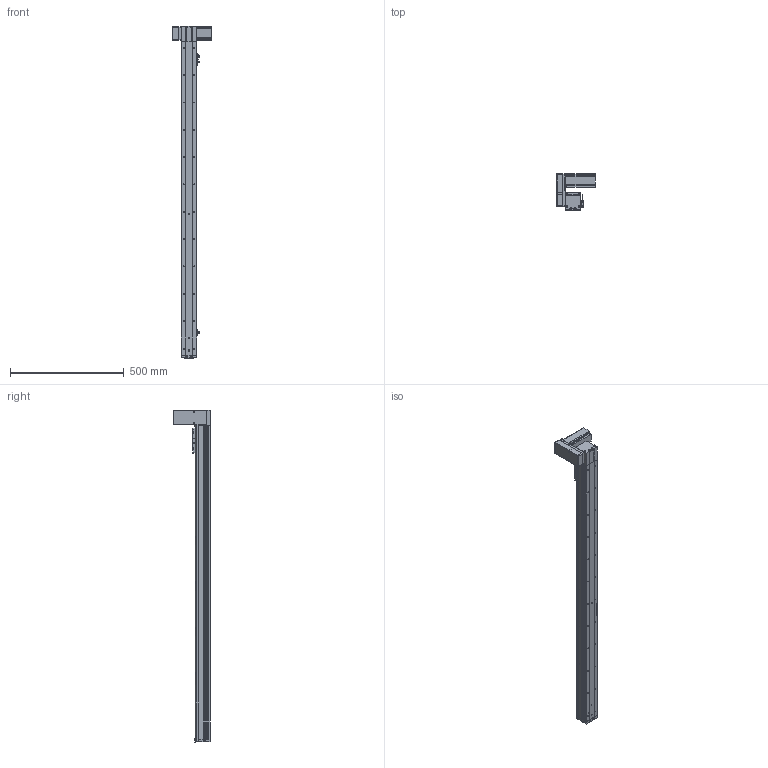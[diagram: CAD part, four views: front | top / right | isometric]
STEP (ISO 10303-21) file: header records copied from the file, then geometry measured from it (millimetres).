
FILE_DESCRIPTION (( 'STEP AP214' ), '1' );
FILE_NAME ('KSD68BS-S1200-MRU-CR.STEP', '2019-08-28T06:47:31', ( '微软用户' ), ( '微软中国' ), 'SwSTEP 2.0', 'SolidWorks 2014', '' );
FILE_SCHEMA (( 'AUTOMOTIVE_DESIGN' ));
Length unit declared in the file: millimetre
Products named in the file (14): KSD68BS-S1200-MRU-CR; KSD68BS 1200行程盖板全封闭; 68遵裔啣揤啣1; 68宽单导轨全封闭丝杆传动安装板1防护罩; KSD68BS 1200行程侧板全封闭; 68宽单导轨全封闭同步带端板; 68单导轨全封闭同步带电机座右; 68单导轨全封闭同步带安装板; 悵誘欶奻狟殏; 68宽马达安装板连板上折同步带; 感应片68宽全封闭; U倰嫖萇EEㄜSX672; 台达ECMA－C20604AS伺服电机（400W); KSD68BS 1200行程底板全封闭
Assembly tree (17 placements, depth 2):
  KSD68BS-S1200-MRU-CR
    KSD68BS 1200行程底板全封闭
    台达ECMA－C20604AS伺服电机（400W)
    U倰嫖萇EEㄜSX672  x3
    感应片68宽全封闭
    68宽马达安装板连板上折同步带
    悵誘欶奻狟殏
    68单导轨全封闭同步带安装板
    68单导轨全封闭同步带电机座右
    68宽单导轨全封闭同步带端板
    KSD68BS 1200行程侧板全封闭  x2
    68宽单导轨全封闭丝杆传动安装板1防护罩
    68遵裔啣揤啣1  x2
    KSD68BS 1200行程盖板全封闭
Bounding box: 167.2 x 159.5 x 1458.1 mm (x, y, z)
Volume: 2809006.4 mm3; surface area: 1097566.7 mm2
Topology: 18 solids, 18 shells, 1514 faces, 4323 edges, 2755 vertices
Faces by surface type: cylinder 707, plane 631, cone 176
Entity records: 47842 total; most frequent: CARTESIAN_POINT 8329, DIRECTION 7159, ORIENTED_EDGE 6874, EDGE_CURVE 3437, AXIS2_PLACEMENT_3D 2575, VERTEX_POINT 2253, LINE 2009, VECTOR 2009
